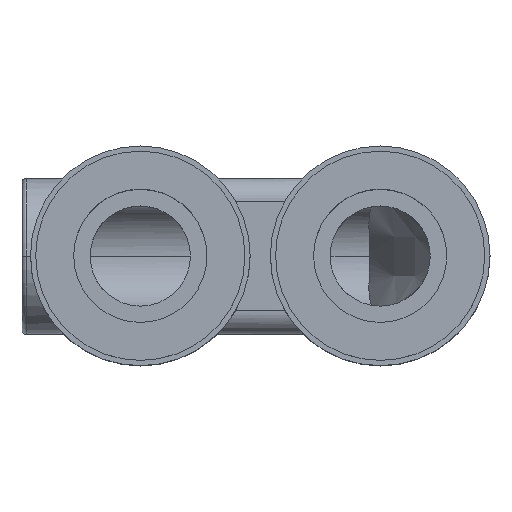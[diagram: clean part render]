
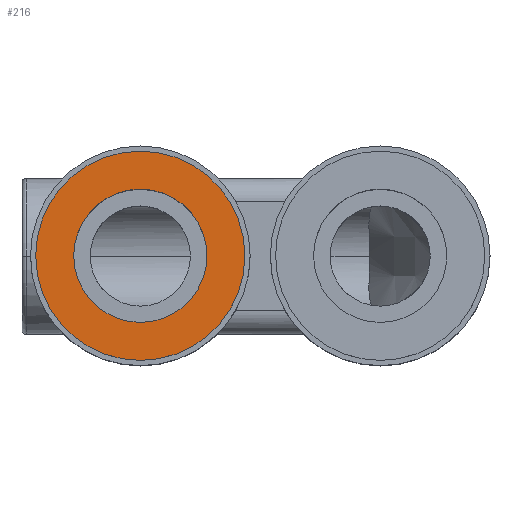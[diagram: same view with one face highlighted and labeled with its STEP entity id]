
A CAD part, top view. The second image highlights one B-rep face of the part: STEP entity #216.
In plain terms, the highlighted planar face has unit normal (0, 0, 1).
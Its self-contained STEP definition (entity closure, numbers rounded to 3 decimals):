
#216 = ADVANCED_FACE ( 'NONE', ( #1266, #1268 ), #776, .F. ) ;
#368 = CIRCLE ( 'NONE', #1222, 6.475 ) ;
#384 = CIRCLE ( 'NONE', #1197, 4.125 ) ;
#481 = CIRCLE ( 'NONE', #1198, 6.475 ) ;
#773 = DIRECTION ( 'NONE',  ( 1., 0., 0. ) ) ;
#774 = DIRECTION ( 'NONE',  ( 0., 0., -1. ) ) ;
#775 = CARTESIAN_POINT ( 'NONE',  ( -7.425, 0., 27.45 ) ) ;
#776 = PLANE ( 'NONE',  #961 ) ;
#862 = VERTEX_POINT ( 'NONE', #2253 ) ;
#910 = VERTEX_POINT ( 'NONE', #2096 ) ;
#918 = VERTEX_POINT ( 'NONE', #2072 ) ;
#924 = VERTEX_POINT ( 'NONE', #2052 ) ;
#961 = AXIS2_PLACEMENT_3D ( 'NONE', #775, #774, #773 ) ;
#971 = EDGE_CURVE ( 'NONE', #862, #918, #368, .T. ) ;
#1040 = EDGE_CURVE ( 'NONE', #918, #862, #481, .T. ) ;
#1041 = EDGE_CURVE ( 'NONE', #924, #910, #384, .T. ) ;
#1118 = EDGE_CURVE ( 'NONE', #910, #924, #1436, .T. ) ;
#1149 = AXIS2_PLACEMENT_3D ( 'NONE', #1639, #1638, #1637 ) ;
#1197 = AXIS2_PLACEMENT_3D ( 'NONE', #2172, #2166, #2145 ) ;
#1198 = AXIS2_PLACEMENT_3D ( 'NONE', #2177, #2176, #2175 ) ;
#1222 = AXIS2_PLACEMENT_3D ( 'NONE', #2031, #2021, #2020 ) ;
#1266 = FACE_OUTER_BOUND ( 'NONE', #1392, .T. ) ;
#1268 = FACE_BOUND ( 'NONE', #1380, .T. ) ;
#1380 = EDGE_LOOP ( 'NONE', ( #1463, #1466 ) ) ;
#1392 = EDGE_LOOP ( 'NONE', ( #1465, #1467 ) ) ;
#1436 = CIRCLE ( 'NONE', #1149, 4.125 ) ;
#1463 = ORIENTED_EDGE ( 'NONE', *, *, #1118, .T. ) ;
#1465 = ORIENTED_EDGE ( 'NONE', *, *, #1040, .T. ) ;
#1466 = ORIENTED_EDGE ( 'NONE', *, *, #1041, .T. ) ;
#1467 = ORIENTED_EDGE ( 'NONE', *, *, #971, .T. ) ;
#1637 = DIRECTION ( 'NONE',  ( -1., 0., 0. ) ) ;
#1638 = DIRECTION ( 'NONE',  ( 0., 0., -1. ) ) ;
#1639 = CARTESIAN_POINT ( 'NONE',  ( -7.425, 0., 27.45 ) ) ;
#2020 = DIRECTION ( 'NONE',  ( 1., 0., 0. ) ) ;
#2021 = DIRECTION ( 'NONE',  ( 0., 0., 1. ) ) ;
#2031 = CARTESIAN_POINT ( 'NONE',  ( -7.425, 0., 27.45 ) ) ;
#2052 = CARTESIAN_POINT ( 'NONE',  ( -11.55, 0., 27.45 ) ) ;
#2072 = CARTESIAN_POINT ( 'NONE',  ( -0.95, 0., 27.45 ) ) ;
#2096 = CARTESIAN_POINT ( 'NONE',  ( -3.3, 0., 27.45 ) ) ;
#2145 = DIRECTION ( 'NONE',  ( -1., 0., 0. ) ) ;
#2166 = DIRECTION ( 'NONE',  ( 0., 0., -1. ) ) ;
#2172 = CARTESIAN_POINT ( 'NONE',  ( -7.425, 0., 27.45 ) ) ;
#2175 = DIRECTION ( 'NONE',  ( 1., 0., 0. ) ) ;
#2176 = DIRECTION ( 'NONE',  ( 0., 0., 1. ) ) ;
#2177 = CARTESIAN_POINT ( 'NONE',  ( -7.425, 0., 27.45 ) ) ;
#2253 = CARTESIAN_POINT ( 'NONE',  ( -13.9, 0., 27.45 ) ) ;
